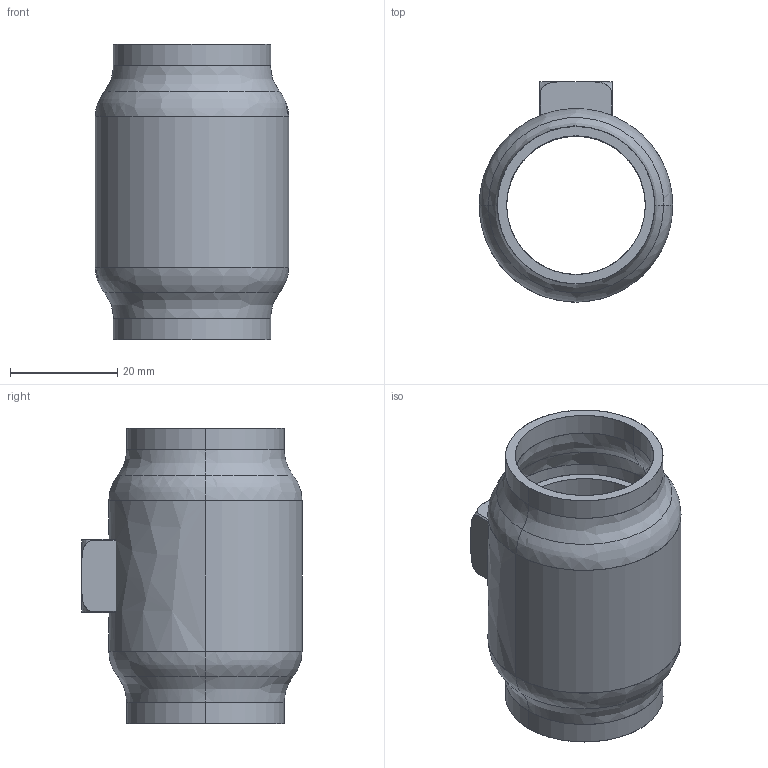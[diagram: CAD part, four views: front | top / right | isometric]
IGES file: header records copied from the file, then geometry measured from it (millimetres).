
Start section: SolidWorks IGES file using analytic representation for surfaces
Global section: file name: C:\HEMSIDA\cad\SLDPRT_2010\wn600\\wn600-25.igs; native system: SolidWorks 2010; preprocessor: SolidWorks 2010; author: Administrator; date: 101214.114941; units: millimetre
Bounding box: 36 x 41 x 55 mm (x, y, z)
Surface area: 16822.5 mm2 (no closed solid volume)
Topology: 0 solids, 0 shells, 56 faces, 953 edges, 953 vertices
Faces by surface type: bspline 29, revolution 27
